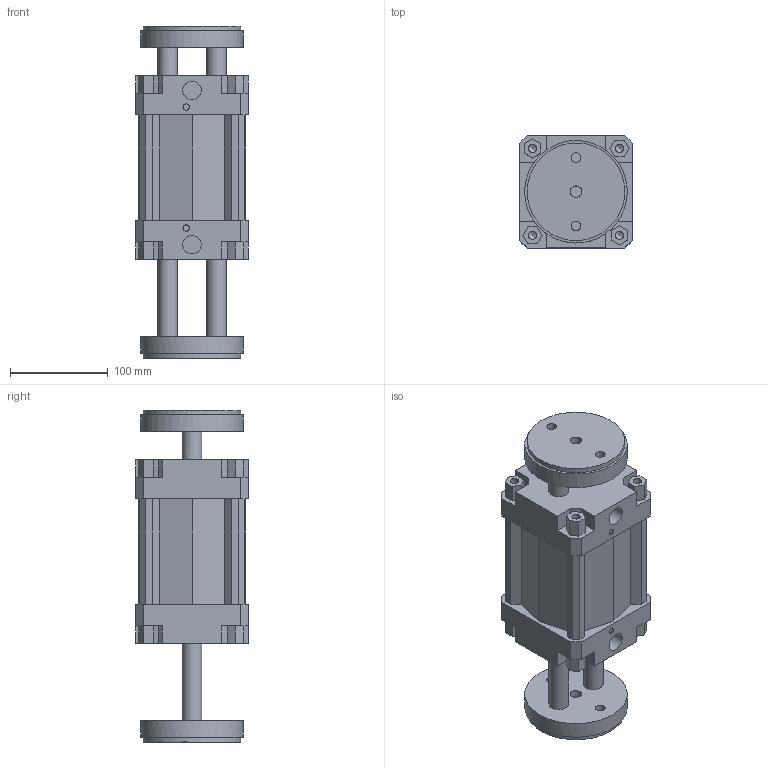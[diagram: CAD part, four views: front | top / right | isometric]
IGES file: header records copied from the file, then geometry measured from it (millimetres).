
Global section: file name: 132#_100_0050_06; native system: Autodesk Inventor 2014; preprocessor: unknown; author: A. Manieri; date: 20161006.163629; units: millimetre
Bounding box: 115 x 115 x 340 mm (x, y, z)
Volume: 2153859.1 mm3; surface area: 301989.6 mm2
Topology: 2 solids, 2 shells, 190 faces, 518 edges, 354 vertices
Faces by surface type: bspline 190
